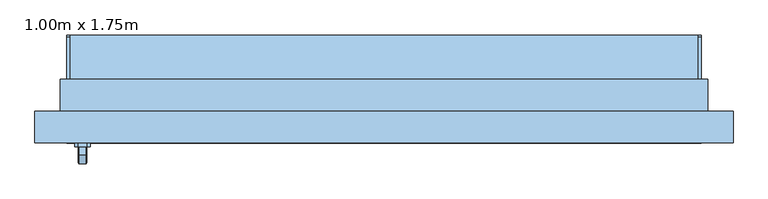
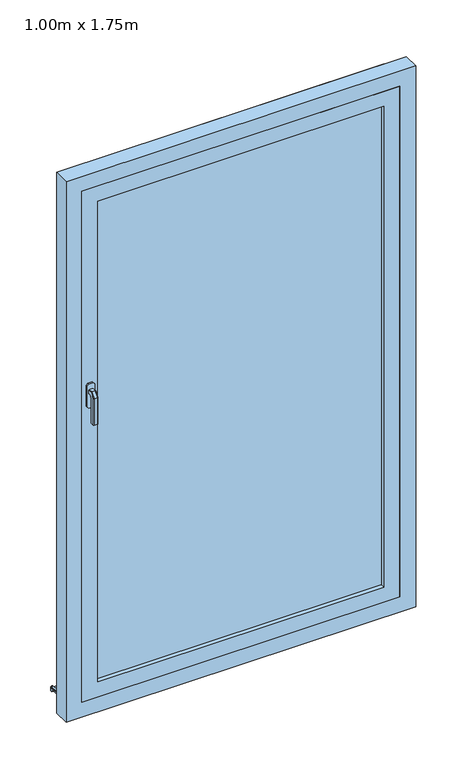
"""IFC4 building model written with IfcOpenShell, lengths in millimetres: window geometry, PF 1 Vantail - Droite : 1.00m x 1.75m."""

from ifc_helpers import new_model, si_unit, point, frame, frame_2d, origin, place, context, project, spatial, polyline, circle_curve, trimmed, segment, composite_curve, outline, extrude, faceted_brep, source, transform, mapped, element, save


def window_1_00m_x_1_75m_f7db58c6(model_context):
    return source(origin(), model_context, "Body", "SolidModel", [
        faceted_brep([(-469.3539903, -86.0, 1122.0339292), (-467.9660708, -86.0, 1120.6460097), (-467.9660708, -86.0, 1109.3323012), (-469.3323012, -86.0, 1107.9660708), (-480.6676988, -86.0, 1107.9660708), (-482.0339292, -86.0, 1109.3323012), (-482.0339292, -86.0, 1120.6460097), (-480.6460097, -86.0, 1122.0339292), (-469.3539903, -98.9135489, 1122.0339292), (-467.9660708, -98.3386538, 1120.6460097), (-467.9660708, -111.6460097, 1107.3386538), (-467.9660708, -111.6460097, 1020.0), (-467.9660708, -100.3323012, 1020.0), (-467.9660708, -100.3323012, 1102.6523623), (-467.9660708, -93.6523623, 1109.3323012), (-469.3323012, -93.0864511, 1107.9660708), (-480.6676988, -93.0864511, 1107.9660708), (-482.0339292, -93.6523623, 1109.3323012), (-482.0339292, -100.3323012, 1102.6523623), (-482.0339292, -100.3323012, 1020.0), (-482.0339292, -111.6460097, 1020.0), (-482.0339292, -111.6460097, 1107.3386538), (-482.0339292, -98.3386538, 1120.6460097), (-480.6460097, -98.9135489, 1122.0339292), (-469.3539903, -113.0339292, 1107.9135489), (-469.3323012, -98.9660708, 1102.0864511), (-480.6676988, -98.9660708, 1102.0864511), (-480.6460097, -113.0339292, 1107.9135489), (-469.3539903, -113.0339292, 1020.0), (-480.6460097, -113.0339292, 1020.0), (-480.6676988, -98.9660708, 1020.0), (-469.3323012, -98.9660708, 1020.0)], [[[0, 1, 2, 3, 4, 5, 6, 7]], [[1, 0, 8, 9]], [[2, 1, 9, 10, 11, 12, 13, 14]], [[3, 2, 14, 15]], [[4, 3, 15, 16]], [[5, 4, 16, 17]], [[6, 5, 17, 18, 19, 20, 21, 22]], [[7, 6, 22, 23]], [[0, 7, 23, 8]], [[9, 8, 24, 10]], [[15, 14, 13, 25]], [[16, 15, 25, 26]], [[17, 16, 26, 18]], [[23, 22, 21, 27]], [[8, 23, 27, 24]], [[28, 29, 20, 19, 30, 31, 12, 11]], [[10, 24, 28, 11]], [[25, 13, 12, 31]], [[26, 25, 31, 30]], [[18, 26, 30, 19]], [[27, 21, 20, 29]], [[24, 27, 29, 28]]]),
        extrude(outline(polyline([(1140.0, -468.0), (1140.0, -482.0), (1135.0, -487.0), (1065.0, -487.0), (1060.0, -482.0), (1060.0, -468.0), (1065.0, -463.0), (1135.0, -463.0), (1140.0, -468.0)])), frame((0.0, -86.0, 0.0), z_axis=(0.0, 1.0, 0.0), x_axis=(0.0, 0.0, 1.0)), (0.0, 0.0, 1.0), 6.0),
        extrude(outline(polyline([(90.0288776, 30.7927954), (90.0288776, 19.7145929), (85.0288776, 20.2401141), (85.0288776, 26.0631048), (0.0, 35.0), (0.0, 50.0), (5.0, 50.0), (5.0, 39.7296906), (90.0288776, 30.7927954)])), frame((-500.0, 0.0, 0.0), z_axis=(1.0, 0.0, 0.0), x_axis=(0.0, 1.0, 0.0)), (0.0, 0.0, 1.0), 1000.0),
        extrude(outline(composite_curve([segment(polyline([(90.0288776, 30.7927954), (5.0, 39.7296906), (5.0, 44.757232), (86.4469915, 36.1968082)]), True, "CONTINUOUS"), segment(trimmed(circle_curve(frame_2d((86.0288776, 32.2187207)), 4.0), [point((86.4469915, 36.1968082))], [point((90.0288776, 32.2187207))], False, "CARTESIAN"), True, "CONTINUOUS"), segment(polyline([(90.0288776, 32.2187207), (90.0288776, 30.7927954)]), True, "CONTINUOUS")], self_intersect=False)), frame((-500.0, 0.0, 0.0), z_axis=(1.0, 0.0, 0.0), x_axis=(0.0, 1.0, 0.0)), (0.0, 0.0, 1.0), 5.0),
        extrude(outline(composite_curve([segment(polyline([(90.0288776, 30.7927954), (5.0, 39.7296906), (5.0, 44.757232), (86.4469915, 36.1968082)]), True, "CONTINUOUS"), segment(trimmed(circle_curve(frame_2d((86.0288776, 32.2187207)), 4.0), [point((86.4469915, 36.1968082))], [point((90.0288776, 32.2187207))], False, "CARTESIAN"), True, "CONTINUOUS"), segment(polyline([(90.0288776, 32.2187207), (90.0288776, 30.7927954)]), True, "CONTINUOUS")], self_intersect=False)), frame((495.0, 0.0, 0.0), z_axis=(1.0, 0.0, 0.0), x_axis=(0.0, 1.0, 0.0)), (0.0, 0.0, 1.0), 5.0),
        extrude(outline(polyline([(-450.0, -54.0), (450.0, -54.0), (450.0, -66.0), (-450.0, -66.0), (-450.0, -54.0)])), frame((0.0, 0.0, 135.0), z_axis=(0.0, 0.0, 1.0), x_axis=(1.0, 0.0, 0.0)), (0.0, 0.0, 1.0), 1600.0),
        extrude(outline(polyline([(85.0, 500.0), (1785.0, 500.0), (1785.0, -500.0), (85.0, -500.0), (85.0, 500.0)]), holes=[polyline([(135.0, -450.0), (1735.0, -450.0), (1735.0, 450.0), (135.0, 450.0), (135.0, -450.0)])]), frame((0.0, -80.0, 0.0), z_axis=(0.0, 1.0, 0.0), x_axis=(0.0, 0.0, 1.0)), (0.0, 0.0, 1.0), 40.0),
        faceted_brep([(-550.0, -80.0, 35.0), (-550.0, -30.0, 35.0), (-500.0, -30.0, 35.0), (-500.0, 0.0, 35.0), (500.0, 0.0, 35.0), (500.0, -30.0, 35.0), (550.0, -30.0, 35.0), (550.0, -80.0, 35.0), (-550.0, -80.0, 1835.0), (-550.0, -30.0, 1835.0), (550.0, -30.0, 1835.0), (500.0, -30.0, 74.3761425), (-500.0, -30.0, 74.3761425), (-485.0, -30.0, 1770.0), (-485.0, -30.0, 100.0), (485.0, -30.0, 100.0), (485.0, -30.0, 1770.0), (-500.0, 20.0, 60.9786829), (-500.0, 20.0, 45.0), (-500.0, 10.0, 45.0), (-500.0, 10.0, 50.0), (-500.0, 0.0, 50.0), (500.0, 0.0, 50.0), (500.0, 10.0, 50.0), (500.0, 10.0, 45.0), (500.0, 20.0, 45.0), (500.0, 20.0, 60.9786829), (550.0, -80.0, 1835.0), (500.0, -80.0, 1785.0), (500.0, -80.0, 85.0), (-500.0, -80.0, 85.0), (-500.0, -80.0, 1785.0), (-485.0, -40.0, 1770.0), (-485.0, -40.0, 100.0), (485.0, -40.0, 100.0), (485.0, -40.0, 1770.0), (500.0, -40.0, 1785.0), (-500.0, -40.0, 1785.0), (-500.0, -40.0, 85.0), (500.0, -40.0, 85.0)], [[[0, 1, 2, 3, 4, 5, 6, 7]], [[1, 0, 8, 9]], [[1, 9, 10, 6, 5, 11, 12, 2], [13, 14, 15, 16]], [[12, 17, 18, 19, 20, 21, 3, 2]], [[3, 21, 22, 4]], [[4, 22, 23, 24, 25, 26, 11, 5]], [[6, 10, 27, 7]], [[0, 7, 27, 8], [28, 29, 30, 31]], [[13, 32, 33, 14]], [[33, 34, 15, 14]], [[35, 16, 15, 34]], [[17, 12, 11, 26]], [[36, 37, 38, 39], [32, 35, 34, 33]], [[38, 37, 31, 30]], [[30, 29, 39, 38]], [[28, 36, 39, 29]], [[18, 17, 26, 25]], [[19, 18, 25, 24]], [[20, 19, 24, 23]], [[21, 20, 23, 22]], [[13, 16, 35, 32]], [[37, 36, 28, 31]], [[10, 9, 8, 27]]]),
        extrude(outline(polyline([(35.0, -510.0), (35.0, -500.0), (1785.0, -500.0), (1785.0, 500.0), (35.0, 500.0), (35.0, 510.0), (1795.0, 510.0), (1795.0, -510.0), (35.0, -510.0)])), frame((0.0, -30.0, 0.0), z_axis=(0.0, 1.0, 0.0), x_axis=(0.0, 0.0, 1.0)), (0.0, 0.0, 1.0), 50.0),
    ])


if __name__ == "__main__":
    model = new_model("IFC4")
    model_context = context("Model", 3, world=origin())
    ifc_project = project(units=[si_unit("LENGTHUNIT", "METRE", prefix="MILLI")], contexts=[model_context])
    site = spatial("IfcSite", under=ifc_project)
    building = spatial("IfcBuilding", under=site)
    placement = place(None, origin())
    window_1_00m_x_1_75m_shape = window_1_00m_x_1_75m_f7db58c6(model_context)
    element("IfcWindow", 1, ObjectType="PF 1 Vantail - Droite : 1.00m x 1.75m", at=placement, inside=building, context=model_context, shape_type="MappedRepresentation", body=[
        mapped(window_1_00m_x_1_75m_shape, transform((0.0, 0.0, 0.0), x_axis=(1.0, 0.0, 0.0), y_axis=(0.0, 1.0, 0.0), z_axis=(0.0, 0.0, 1.0))),
    ])
    save(model, "model.ifc")
